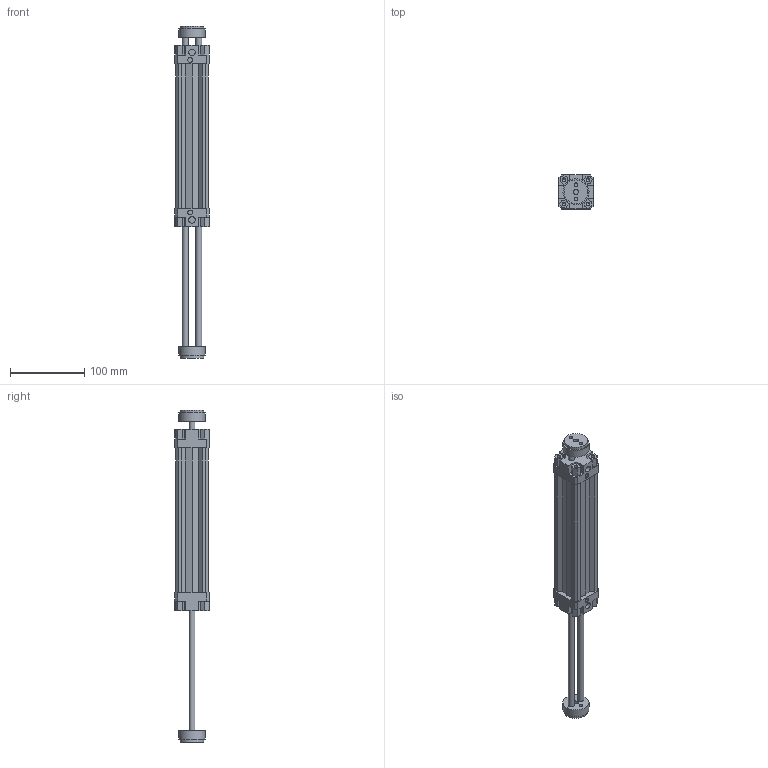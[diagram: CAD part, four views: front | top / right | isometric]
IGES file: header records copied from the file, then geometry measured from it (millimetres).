
Global section: file name: 132#_032_0150_06; native system: Autodesk Inventor 2014; preprocessor: unknown; author: A. Manieri; date: 20161006.154704; units: millimetre
Bounding box: 46 x 46 x 446 mm (x, y, z)
Volume: 309674.9 mm3; surface area: 112795.5 mm2
Topology: 2 solids, 2 shells, 190 faces, 518 edges, 354 vertices
Faces by surface type: bspline 190
